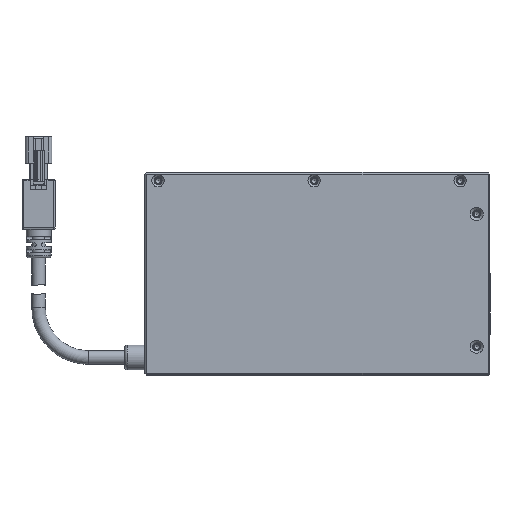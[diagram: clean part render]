
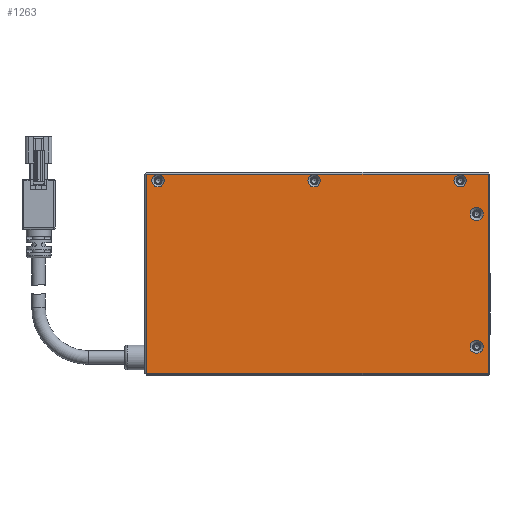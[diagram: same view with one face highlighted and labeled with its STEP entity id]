
A CAD part, top view. The second image highlights one B-rep face of the part: STEP entity #1263.
In plain terms, the highlighted planar face has unit normal (0, 0, 1).
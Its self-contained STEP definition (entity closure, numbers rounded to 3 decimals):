
#263 = VERTEX_POINT ( 'NONE', #8535 ) ;
#832 = DIRECTION ( 'NONE',  ( 0., -1., 0. ) ) ;
#876 = CARTESIAN_POINT ( 'NONE',  ( -53., 30., 29.5 ) ) ;
#1263 = ADVANCED_FACE ( 'NONE', ( #8406, #10437, #13187, #10666, #17730, #14322 ), #2315, .F. ) ;
#1283 = LINE ( 'NONE', #5095, #14559 ) ;
#1428 = ORIENTED_EDGE ( 'NONE', *, *, #3657, .F. ) ;
#1919 = CARTESIAN_POINT ( 'NONE',  ( -0.5, 32.5, 29.5 ) ) ;
#1992 = ORIENTED_EDGE ( 'NONE', *, *, #12054, .T. ) ;
#2315 = PLANE ( 'NONE',  #12390 ) ;
#2363 = ORIENTED_EDGE ( 'NONE', *, *, #9448, .T. ) ;
#2395 = VECTOR ( 'NONE', #14606, 1000. ) ;
#2906 = AXIS2_PLACEMENT_3D ( 'NONE', #13664, #7696, #4910 ) ;
#2998 = VERTEX_POINT ( 'NONE', #4446 ) ;
#3234 = CIRCLE ( 'NONE', #15266, 1.85 ) ;
#3452 = VERTEX_POINT ( 'NONE', #18635 ) ;
#3617 = EDGE_CURVE ( 'NONE', #15603, #15603, #14888, .T. ) ;
#3657 = EDGE_CURVE ( 'NONE', #17266, #13852, #8079, .T. ) ;
#3681 = CARTESIAN_POINT ( 'NONE',  ( -4., 20., 29.5 ) ) ;
#3845 = DIRECTION ( 'NONE',  ( 0., 0., -1. ) ) ;
#4446 = CARTESIAN_POINT ( 'NONE',  ( -103.5, 32., 29.5 ) ) ;
#4817 = VECTOR ( 'NONE', #18449, 1000. ) ;
#4910 = DIRECTION ( 'NONE',  ( -1., 0., 0. ) ) ;
#5032 = DIRECTION ( 'NONE',  ( 0., 0., -1. ) ) ;
#5095 = CARTESIAN_POINT ( 'NONE',  ( -58., -28., 29.5 ) ) ;
#5334 = CARTESIAN_POINT ( 'NONE',  ( -54.85, 30., 29.5 ) ) ;
#5727 = CIRCLE ( 'NONE', #13561, 2. ) ;
#6095 = DIRECTION ( 'NONE',  ( 0., 0., -1. ) ) ;
#6283 = ORIENTED_EDGE ( 'NONE', *, *, #17226, .F. ) ;
#6524 = DIRECTION ( 'NONE',  ( 1., 0., 0. ) ) ;
#6593 = DIRECTION ( 'NONE',  ( -1., 0., 0. ) ) ;
#7168 = EDGE_LOOP ( 'NONE', ( #16085, #1428, #6283, #15409 ) ) ;
#7696 = DIRECTION ( 'NONE',  ( 0., 0., -1. ) ) ;
#7871 = EDGE_CURVE ( 'NONE', #11711, #11711, #3234, .T. ) ;
#8079 = LINE ( 'NONE', #1919, #13303 ) ;
#8251 = ORIENTED_EDGE ( 'NONE', *, *, #7871, .T. ) ;
#8353 = CARTESIAN_POINT ( 'NONE',  ( -101.85, 30., 29.5 ) ) ;
#8406 = FACE_OUTER_BOUND ( 'NONE', #7168, .T. ) ;
#8460 = EDGE_CURVE ( 'NONE', #3452, #3452, #5727, .T. ) ;
#8535 = CARTESIAN_POINT ( 'NONE',  ( -103.5, -28., 29.5 ) ) ;
#8739 = LINE ( 'NONE', #15218, #4817 ) ;
#9038 = EDGE_CURVE ( 'NONE', #2998, #263, #8739, .T. ) ;
#9060 = DIRECTION ( 'NONE',  ( -1., 0., 0. ) ) ;
#9448 = EDGE_CURVE ( 'NONE', #18518, #18518, #14399, .T. ) ;
#9643 = DIRECTION ( 'NONE',  ( 0., 0., -1. ) ) ;
#9667 = DIRECTION ( 'NONE',  ( -1., 0., 0. ) ) ;
#10128 = CARTESIAN_POINT ( 'NONE',  ( -0.5, -28., 29.5 ) ) ;
#10437 = FACE_BOUND ( 'NONE', #14779, .T. ) ;
#10666 = FACE_BOUND ( 'NONE', #14307, .T. ) ;
#10970 = EDGE_LOOP ( 'NONE', ( #1992 ) ) ;
#11092 = CARTESIAN_POINT ( 'NONE',  ( -58., -27., 29.5 ) ) ;
#11575 = LINE ( 'NONE', #17368, #2395 ) ;
#11711 = VERTEX_POINT ( 'NONE', #5334 ) ;
#12054 = EDGE_CURVE ( 'NONE', #16044, #16044, #13298, .T. ) ;
#12171 = DIRECTION ( 'NONE',  ( 0., -1., 0. ) ) ;
#12390 = AXIS2_PLACEMENT_3D ( 'NONE', #11092, #3845, #832 ) ;
#12585 = DIRECTION ( 'NONE',  ( -1., 0., 0. ) ) ;
#12606 = DIRECTION ( 'NONE',  ( 0., 0., -1. ) ) ;
#12615 = AXIS2_PLACEMENT_3D ( 'NONE', #14842, #6095, #9060 ) ;
#13187 = FACE_BOUND ( 'NONE', #18022, .T. ) ;
#13298 = CIRCLE ( 'NONE', #13366, 2. ) ;
#13303 = VECTOR ( 'NONE', #12171, 1000. ) ;
#13366 = AXIS2_PLACEMENT_3D ( 'NONE', #3681, #5032, #6593 ) ;
#13561 = AXIS2_PLACEMENT_3D ( 'NONE', #18361, #9643, #12585 ) ;
#13664 = CARTESIAN_POINT ( 'NONE',  ( -100., 30., 29.5 ) ) ;
#13852 = VERTEX_POINT ( 'NONE', #10128 ) ;
#13911 = EDGE_LOOP ( 'NONE', ( #14269 ) ) ;
#14070 = ORIENTED_EDGE ( 'NONE', *, *, #3617, .T. ) ;
#14269 = ORIENTED_EDGE ( 'NONE', *, *, #8460, .T. ) ;
#14307 = EDGE_LOOP ( 'NONE', ( #2363 ) ) ;
#14322 = FACE_BOUND ( 'NONE', #13911, .T. ) ;
#14399 = CIRCLE ( 'NONE', #2906, 1.85 ) ;
#14559 = VECTOR ( 'NONE', #6524, 1000. ) ;
#14606 = DIRECTION ( 'NONE',  ( 1., 0., 0. ) ) ;
#14779 = EDGE_LOOP ( 'NONE', ( #14070 ) ) ;
#14842 = CARTESIAN_POINT ( 'NONE',  ( -9., 30., 29.5 ) ) ;
#14888 = CIRCLE ( 'NONE', #12615, 1.85 ) ;
#15121 = EDGE_CURVE ( 'NONE', #263, #13852, #1283, .T. ) ;
#15218 = CARTESIAN_POINT ( 'NONE',  ( -103.5, -27., 29.5 ) ) ;
#15266 = AXIS2_PLACEMENT_3D ( 'NONE', #876, #12606, #9667 ) ;
#15281 = CARTESIAN_POINT ( 'NONE',  ( -6., 20., 29.5 ) ) ;
#15409 = ORIENTED_EDGE ( 'NONE', *, *, #9038, .T. ) ;
#15603 = VERTEX_POINT ( 'NONE', #15805 ) ;
#15805 = CARTESIAN_POINT ( 'NONE',  ( -10.85, 30., 29.5 ) ) ;
#16044 = VERTEX_POINT ( 'NONE', #15281 ) ;
#16085 = ORIENTED_EDGE ( 'NONE', *, *, #15121, .T. ) ;
#17226 = EDGE_CURVE ( 'NONE', #2998, #17266, #11575, .T. ) ;
#17266 = VERTEX_POINT ( 'NONE', #18863 ) ;
#17368 = CARTESIAN_POINT ( 'NONE',  ( 0., 32., 29.5 ) ) ;
#17730 = FACE_BOUND ( 'NONE', #10970, .T. ) ;
#18022 = EDGE_LOOP ( 'NONE', ( #8251 ) ) ;
#18361 = CARTESIAN_POINT ( 'NONE',  ( -4., -20., 29.5 ) ) ;
#18449 = DIRECTION ( 'NONE',  ( 0., -1., 0. ) ) ;
#18518 = VERTEX_POINT ( 'NONE', #8353 ) ;
#18635 = CARTESIAN_POINT ( 'NONE',  ( -6., -20., 29.5 ) ) ;
#18863 = CARTESIAN_POINT ( 'NONE',  ( -0.5, 32., 29.5 ) ) ;
